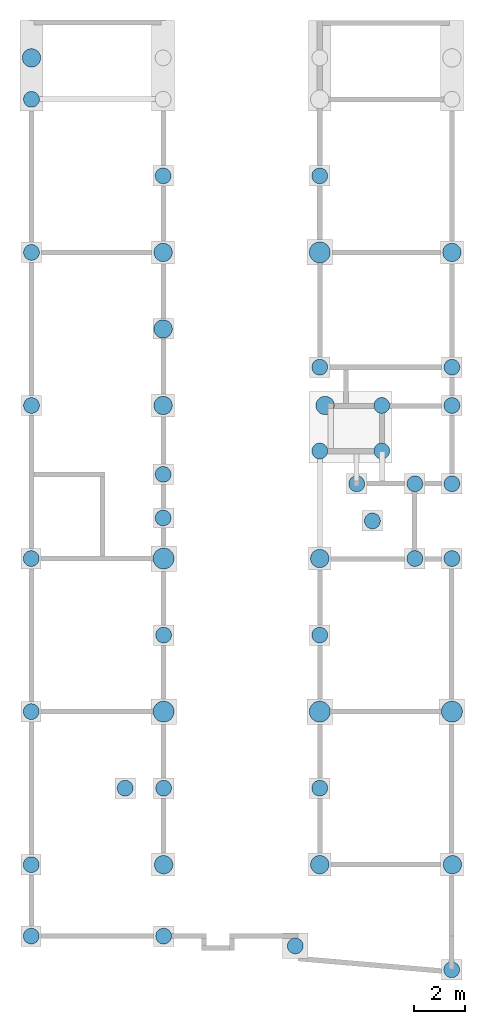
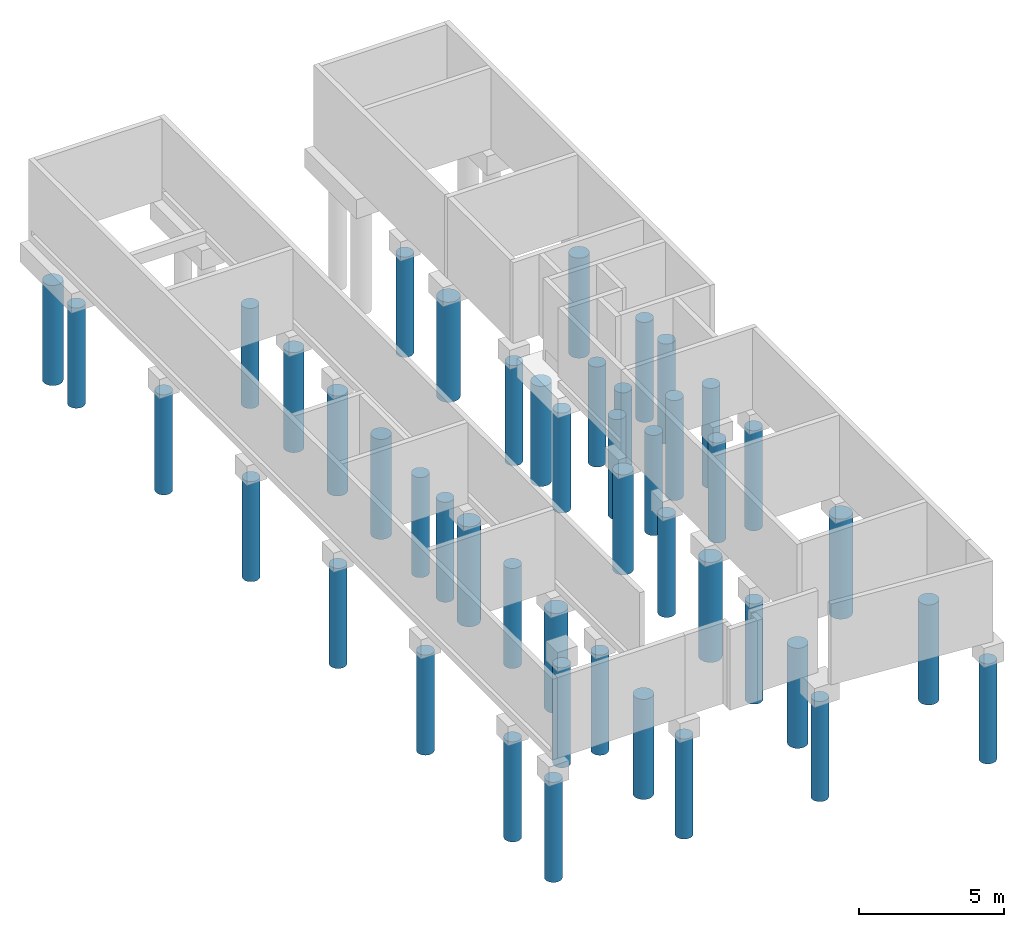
# One storey, part 1 of 3: 46 columns.
"""IFC2X3 building model written with IfcOpenShell, lengths in metres."""

from ifc_helpers import new_model, entity, si_unit, converted_unit, derived_unit, direction, frame, frame_2d, origin, place, context, subcontext, project, spatial, circle, extrude, source, transform, mapped, material, type_object, type_shapes, element, save


model = new_model("IFC2X3")

# Units and contexts
model_context = context("Model", 3, precision=1e-05, world=origin(), true_north=direction((6.12303176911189e-17, 1.0)))
context_of_model = context(None, 3, precision=1e-05, world=origin(), true_north=direction((6.12303176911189e-17, 1.0)))
body_context = subcontext(model_context, "Body", "Model", "MODEL_VIEW")
ifc_project = project(units=[si_unit("LENGTHUNIT", "METRE"), si_unit("AREAUNIT", "SQUARE_METRE"), si_unit("VOLUMEUNIT", "CUBIC_METRE"), converted_unit("PLANEANGLEUNIT", "DEGREE", entity("IfcRatioMeasure", 0.0174532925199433), si_unit("PLANEANGLEUNIT", "RADIAN"), dimensions=[0, 0, 0, 0, 0, 0, 0]), si_unit("MASSUNIT", "GRAM", prefix="KILO"), si_unit("TIMEUNIT", "SECOND"), si_unit("FREQUENCYUNIT", "HERTZ"), si_unit("THERMODYNAMICTEMPERATUREUNIT", "DEGREE_CELSIUS"), derived_unit("THERMALTRANSMITTANCEUNIT", [(si_unit("MASSUNIT", "GRAM", prefix="KILO"), 1), (si_unit("THERMODYNAMICTEMPERATUREUNIT", "KELVIN"), -1), (si_unit("TIMEUNIT", "SECOND"), -3)]), derived_unit("VOLUMETRICFLOWRATEUNIT", [(si_unit("LENGTHUNIT", "METRE"), 3), (si_unit("TIMEUNIT", "SECOND"), -1)]), si_unit("ELECTRICCURRENTUNIT", "AMPERE"), si_unit("ELECTRICVOLTAGEUNIT", "VOLT"), si_unit("POWERUNIT", "WATT"), si_unit("FORCEUNIT", "NEWTON", prefix="KILO"), si_unit("ILLUMINANCEUNIT", "LUX"), si_unit("LUMINOUSFLUXUNIT", "LUMEN"), si_unit("LUMINOUSINTENSITYUNIT", "CANDELA"), si_unit("PRESSUREUNIT", "PASCAL")], contexts=[model_context, context_of_model])

# Site, building, storey
site_placement = place(None, origin())
site = spatial("IfcSite", under=ifc_project, at=site_placement, Name="Default", CompositionType="ELEMENT")
building_placement = place(site_placement, origin())
building = spatial("IfcBuilding", under=site, at=building_placement, CompositionType="ELEMENT")
storey_placement = place(building_placement, frame((0.0, 0.0, -3.39)))
storey = spatial("IfcBuildingStorey", under=building, at=storey_placement, Name="AS Dé", CompositionType="ELEMENT", Elevation=-3.39)

# Columns
column_type_1 = type_object("IfcColumnType", Name="Diamètre de 720 mm 2", PredefinedType="COLUMN")
shared_shape_1 = source(origin(), body_context, "Body", "SweptSolid", [
    extrude(circle(Radius=0.359999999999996, at=frame_2d((-1.08286712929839e-15, -0.119999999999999), x_axis=(1.0, 0.0))), frame((-5.49163901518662, -2.37014661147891, -8.39)), (0.0, 0.0, 1.0), 4.2),
])
type_shapes(column_type_1, [shared_shape_1])
column_1_placement = place(storey_placement, frame((0.0, 0.0, 3.39)))
element("IfcColumn", 1, at=column_1_placement, inside=storey, type_object=column_type_1, Name="Poteau rond:Diamètre de 720 mm 2", ObjectType="Diamètre de 720 mm 2", context=body_context, shape_type="MappedRepresentation", body=[
    mapped(shared_shape_1, transform((0.0, 0.0, 0.0), scale=1.0)),
])
ifc_material = material(Name="Béton C25/30")
column_type_2 = type_object("IfcColumnType", Name="Diamètre de 720 mm 2", PredefinedType="COLUMN", material=ifc_material)
shared_shape_2 = source(origin(), body_context, "Body", "SweptSolid", [
    extrude(circle(Radius=0.359999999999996, at=frame_2d((0.0, -0.119999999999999), x_axis=(1.0, 0.0))), frame((-10.6516390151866, 8.25485338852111, -8.39)), (0.0, 0.0, 1.0), 4.2),
])
type_shapes(column_type_2, [shared_shape_2])
column_2_placement = place(storey_placement, frame((0.0, 0.0, 3.39)))
element("IfcColumn", 2, at=column_2_placement, inside=storey, type_object=column_type_2, material=ifc_material, Name="Poteau rond:Diamètre de 720 mm 2", ObjectType="Diamètre de 720 mm 2", context=body_context, shape_type="MappedRepresentation", body=[
    mapped(shared_shape_2, transform((0.0, 0.0, 0.0), scale=1.0)),
])
column_type_3 = type_object("IfcColumnType", Name="Diamètre de 720 mm 2", PredefinedType="COLUMN", material=ifc_material)
shared_shape_3 = source(origin(), body_context, "Body", "SweptSolid", [
    extrude(circle(Radius=0.359999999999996, at=frame_2d((0.0, -0.119999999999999), x_axis=(1.0, 0.0))), frame((-5.49163901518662, 0.629853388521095, -8.39)), (0.0, 0.0, 1.0), 4.2),
])
type_shapes(column_type_3, [shared_shape_3])
column_3_placement = place(storey_placement, frame((0.0, 0.0, 3.39)))
element("IfcColumn", 3, at=column_3_placement, inside=storey, type_object=column_type_3, material=ifc_material, Name="Poteau rond:Diamètre de 720 mm 2", ObjectType="Diamètre de 720 mm 2", context=body_context, shape_type="MappedRepresentation", body=[
    mapped(shared_shape_3, transform((0.0, 0.0, 0.0), scale=1.0)),
])
column_type_4 = type_object("IfcColumnType", Name="Diamètre de 720 mm 2", PredefinedType="COLUMN")
shared_shape_4 = source(origin(), body_context, "Body", "SweptSolid", [
    extrude(circle(Radius=0.359999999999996, at=frame_2d((1.08286712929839e-15, -0.119999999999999), x_axis=(1.0, 0.0))), frame((5.82836098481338, 0.629853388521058, -8.39)), (0.0, 0.0, 1.0), 4.2),
])
type_shapes(column_type_4, [shared_shape_4])
column_4_placement = place(storey_placement, frame((0.0, 0.0, 3.39)))
element("IfcColumn", 4, at=column_4_placement, inside=storey, type_object=column_type_4, Name="Poteau rond:Diamètre de 720 mm 2", ObjectType="Diamètre de 720 mm 2", context=body_context, shape_type="MappedRepresentation", body=[
    mapped(shared_shape_4, transform((0.0, 0.0, 0.0), scale=1.0)),
])
column_type_5 = type_object("IfcColumnType", Name="Diamètre de 720 mm 2", PredefinedType="COLUMN")
shared_shape_5 = source(origin(), body_context, "Body", "SweptSolid", [
    extrude(circle(Radius=0.359999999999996, at=frame_2d((-1.08286712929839e-15, -0.12), x_axis=(1.0, 0.0))), frame((-5.49163901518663, -5.3701466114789, -8.39)), (0.0, 0.0, 1.0), 4.2),
])
type_shapes(column_type_5, [shared_shape_5])
column_5_placement = place(storey_placement, frame((0.0, 0.0, 3.39)))
element("IfcColumn", 5, at=column_5_placement, inside=storey, type_object=column_type_5, Name="Poteau rond:Diamètre de 720 mm 2", ObjectType="Diamètre de 720 mm 2", context=body_context, shape_type="MappedRepresentation", body=[
    mapped(shared_shape_5, transform((0.0, 0.0, 0.0), scale=1.0)),
])
column_type_6 = type_object("IfcColumnType", Name="Diamètre de 720 mm 2", PredefinedType="COLUMN", material=ifc_material)
shared_shape_6 = source(origin(), body_context, "Body", "SweptSolid", [
    extrude(circle(Radius=0.359999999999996, at=frame_2d((0.0, -0.119999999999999), x_axis=(1.0, 0.0))), frame((5.84836098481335, -23.3701466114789, -8.39)), (0.0, 0.0, 1.0), 4.2),
])
type_shapes(column_type_6, [shared_shape_6])
column_6_placement = place(storey_placement, frame((0.0, 0.0, 3.39)))
element("IfcColumn", 6, at=column_6_placement, inside=storey, type_object=column_type_6, material=ifc_material, Name="Poteau rond:Diamètre de 720 mm 2", ObjectType="Diamètre de 720 mm 2", context=body_context, shape_type="MappedRepresentation", body=[
    mapped(shared_shape_6, transform((0.0, 0.0, 0.0), scale=1.0)),
])
column_type_7 = type_object("IfcColumnType", Name="Diamètre de 720 mm 2", PredefinedType="COLUMN", material=ifc_material)
shared_shape_7 = source(origin(), body_context, "Body", "SweptSolid", [
    extrude(circle(Radius=0.359999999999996, at=frame_2d((5.41433564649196e-16, -0.119999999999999), x_axis=(1.0, 0.0))), frame((0.648360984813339, -23.3701466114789, -8.39)), (0.0, 0.0, 1.0), 4.2),
])
type_shapes(column_type_7, [shared_shape_7])
column_7_placement = place(storey_placement, frame((0.0, 0.0, 3.39)))
element("IfcColumn", 7, at=column_7_placement, inside=storey, type_object=column_type_7, material=ifc_material, Name="Poteau rond:Diamètre de 720 mm 2", ObjectType="Diamètre de 720 mm 2", context=body_context, shape_type="MappedRepresentation", body=[
    mapped(shared_shape_7, transform((0.0, 0.0, 0.0), scale=1.0)),
])
column_type_8 = type_object("IfcColumnType", Name="Diamètre de 720 mm 2", PredefinedType="COLUMN", material=ifc_material)
shared_shape_8 = source(origin(), body_context, "Body", "SweptSolid", [
    extrude(circle(Radius=0.359999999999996, at=frame_2d((5.41433564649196e-16, -0.119999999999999), x_axis=(1.0, 0.0))), frame((0.648360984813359, -11.3701466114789, -8.39)), (0.0, 0.0, 1.0), 4.2),
])
type_shapes(column_type_8, [shared_shape_8])
column_8_placement = place(storey_placement, frame((0.0, 0.0, 3.39)))
element("IfcColumn", 8, at=column_8_placement, inside=storey, type_object=column_type_8, material=ifc_material, Name="Poteau rond:Diamètre de 720 mm 2", ObjectType="Diamètre de 720 mm 2", context=body_context, shape_type="MappedRepresentation", body=[
    mapped(shared_shape_8, transform((0.0, 0.0, 0.0), scale=1.0)),
])
column_type_9 = type_object("IfcColumnType", Name="Diamètre de 620 mm 3", PredefinedType="COLUMN", material=ifc_material)
shared_shape_9 = source(origin(), body_context, "Body", "SweptSolid", [
    extrude(circle(Radius=0.309999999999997, at=frame_2d((-2.16573425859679e-15, -0.103333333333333), x_axis=(1.0, 0.0))), frame((-10.6516390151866, 6.61318672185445, -8.39)), (0.0, 0.0, 1.0), 4.2),
])
type_shapes(column_type_9, [shared_shape_9])
column_9_placement = place(storey_placement, frame((0.0, 0.0, 3.39)))
element("IfcColumn", 9, at=column_9_placement, inside=storey, type_object=column_type_9, material=ifc_material, Name="Poteau rond:Diamètre de 620 mm 3", ObjectType="Diamètre de 620 mm 3", context=body_context, shape_type="MappedRepresentation", body=[
    mapped(shared_shape_9, transform((0.0, 0.0, 0.0), scale=1.0)),
])
column_type_10 = type_object("IfcColumnType", Name="Diamètre de 620 mm 3", PredefinedType="COLUMN")
shared_shape_10 = source(origin(), body_context, "Body", "SweptSolid", [
    extrude(circle(Radius=0.309999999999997, at=frame_2d((0.0, -0.103333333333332), x_axis=(1.0, 0.0))), frame((-5.49163901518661, 3.61318672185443, -8.39)), (0.0, 0.0, 1.0), 4.2),
])
type_shapes(column_type_10, [shared_shape_10])
column_10_placement = place(storey_placement, frame((0.0, 0.0, 3.39)))
element("IfcColumn", 10, at=column_10_placement, inside=storey, type_object=column_type_10, Name="Poteau rond:Diamètre de 620 mm 3", ObjectType="Diamètre de 620 mm 3", context=body_context, shape_type="MappedRepresentation", body=[
    mapped(shared_shape_10, transform((0.0, 0.0, 0.0), scale=1.0)),
])
column_type_11 = type_object("IfcColumnType", Name="Diamètre de 620 mm 3", PredefinedType="COLUMN", material=ifc_material)
shared_shape_11 = source(origin(), body_context, "Body", "SweptSolid", [
    extrude(circle(Radius=0.309999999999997, at=frame_2d((5.41433564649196e-16, -0.103333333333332), x_axis=(1.0, 0.0))), frame((0.648360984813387, 3.61318672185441, -8.39)), (0.0, 0.0, 1.0), 4.2),
])
type_shapes(column_type_11, [shared_shape_11])
column_11_placement = place(storey_placement, frame((0.0, 0.0, 3.39)))
element("IfcColumn", 11, at=column_11_placement, inside=storey, type_object=column_type_11, material=ifc_material, Name="Poteau rond:Diamètre de 620 mm 3", ObjectType="Diamètre de 620 mm 3", context=body_context, shape_type="MappedRepresentation", body=[
    mapped(shared_shape_11, transform((0.0, 0.0, 0.0), scale=1.0)),
])
column_type_12 = type_object("IfcColumnType", Name="Diamètre de 620 mm 3", PredefinedType="COLUMN")
shared_shape_12 = source(origin(), body_context, "Body", "SweptSolid", [
    extrude(circle(Radius=0.309999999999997, at=frame_2d((5.41433564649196e-16, -0.103333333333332), x_axis=(1.0, 0.0))), frame((0.648360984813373, -3.88681327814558, -8.39)), (0.0, 0.0, 1.0), 4.2),
])
type_shapes(column_type_12, [shared_shape_12])
column_12_placement = place(storey_placement, frame((0.0, 0.0, 3.39)))
element("IfcColumn", 12, at=column_12_placement, inside=storey, type_object=column_type_12, Name="Poteau rond:Diamètre de 620 mm 3", ObjectType="Diamètre de 620 mm 3", context=body_context, shape_type="MappedRepresentation", body=[
    mapped(shared_shape_12, transform((0.0, 0.0, 0.0), scale=1.0)),
])
column_type_13 = type_object("IfcColumnType", Name="Diamètre de 620 mm 3", PredefinedType="COLUMN")
shared_shape_13 = source(origin(), body_context, "Body", "SweptSolid", [
    extrude(circle(Radius=0.309999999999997, at=frame_2d((0.0, -0.103333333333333), x_axis=(1.0, 0.0))), frame((5.82836098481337, -3.8868132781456, -8.39)), (0.0, 0.0, 1.0), 4.2),
])
type_shapes(column_type_13, [shared_shape_13])
column_13_placement = place(storey_placement, frame((0.0, 0.0, 3.39)))
element("IfcColumn", 13, at=column_13_placement, inside=storey, type_object=column_type_13, Name="Poteau rond:Diamètre de 620 mm 3", ObjectType="Diamètre de 620 mm 3", context=body_context, shape_type="MappedRepresentation", body=[
    mapped(shared_shape_13, transform((0.0, 0.0, 0.0), scale=1.0)),
])
column_type_14 = type_object("IfcColumnType", Name="Diamètre de 620 mm 3", PredefinedType="COLUMN")
shared_shape_14 = source(origin(), body_context, "Body", "SweptSolid", [
    extrude(circle(Radius=0.309999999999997, at=frame_2d((1.08286712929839e-15, -0.103333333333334), x_axis=(1.0, 0.0))), frame((5.82836098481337, -5.38681327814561, -8.39)), (0.0, 0.0, 1.0), 4.2),
])
type_shapes(column_type_14, [shared_shape_14])
column_14_placement = place(storey_placement, frame((0.0, 0.0, 3.39)))
element("IfcColumn", 14, at=column_14_placement, inside=storey, type_object=column_type_14, Name="Poteau rond:Diamètre de 620 mm 3", ObjectType="Diamètre de 620 mm 3", context=body_context, shape_type="MappedRepresentation", body=[
    mapped(shared_shape_14, transform((0.0, 0.0, 0.0), scale=1.0)),
])
column_type_15 = type_object("IfcColumnType", Name="Diamètre de 620 mm 3", PredefinedType="COLUMN", material=ifc_material)
shared_shape_15 = source(origin(), body_context, "Body", "SweptSolid", [
    extrude(circle(Radius=0.309999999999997, at=frame_2d((5.41433564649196e-16, -0.103333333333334), x_axis=(1.0, 0.0))), frame((3.07836098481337, -5.3868132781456, -8.39)), (0.0, 0.0, 1.0), 4.2),
])
type_shapes(column_type_15, [shared_shape_15])
column_15_placement = place(storey_placement, frame((0.0, 0.0, 3.39)))
element("IfcColumn", 15, at=column_15_placement, inside=storey, type_object=column_type_15, material=ifc_material, Name="Poteau rond:Diamètre de 620 mm 3", ObjectType="Diamètre de 620 mm 3", context=body_context, shape_type="MappedRepresentation", body=[
    mapped(shared_shape_15, transform((0.0, 0.0, 0.0), scale=1.0)),
])
column_type_16 = type_object("IfcColumnType", Name="Diamètre de 620 mm 3", PredefinedType="COLUMN", material=ifc_material)
shared_shape_16 = source(origin(), body_context, "Body", "SweptSolid", [
    extrude(circle(Radius=0.309999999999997, at=frame_2d((5.41433564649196e-16, -0.103333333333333), x_axis=(1.0, 0.0))), frame((3.07836098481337, -7.1723132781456, -8.39)), (0.0, 0.0, 1.0), 4.2),
])
type_shapes(column_type_16, [shared_shape_16])
column_16_placement = place(storey_placement, frame((0.0, 0.0, 3.39)))
element("IfcColumn", 16, at=column_16_placement, inside=storey, type_object=column_type_16, material=ifc_material, Name="Poteau rond:Diamètre de 620 mm 3", ObjectType="Diamètre de 620 mm 3", context=body_context, shape_type="MappedRepresentation", body=[
    mapped(shared_shape_16, transform((0.0, 0.0, 0.0), scale=1.0)),
])
column_type_17 = type_object("IfcColumnType", Name="Diamètre de 620 mm 3", PredefinedType="COLUMN", material=ifc_material)
shared_shape_17 = source(origin(), body_context, "Body", "SweptSolid", [
    extrude(circle(Radius=0.309999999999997, at=frame_2d((5.41433564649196e-16, -0.103333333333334), x_axis=(1.0, 0.0))), frame((0.648360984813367, -7.17231327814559, -8.39)), (0.0, 0.0, 1.0), 4.2),
])
type_shapes(column_type_17, [shared_shape_17])
column_17_placement = place(storey_placement, frame((0.0, 0.0, 3.39)))
element("IfcColumn", 17, at=column_17_placement, inside=storey, type_object=column_type_17, material=ifc_material, Name="Poteau rond:Diamètre de 620 mm 3", ObjectType="Diamètre de 620 mm 3", context=body_context, shape_type="MappedRepresentation", body=[
    mapped(shared_shape_17, transform((0.0, 0.0, 0.0), scale=1.0)),
])
column_type_18 = type_object("IfcColumnType", Name="Diamètre de 620 mm 3", PredefinedType="COLUMN", material=ifc_material)
shared_shape_18 = source(origin(), body_context, "Body", "SweptSolid", [
    extrude(circle(Radius=0.309999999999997, at=frame_2d((5.41433564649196e-16, -0.103333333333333), x_axis=(1.0, 0.0))), frame((2.09836098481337, -8.4568132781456, -8.39)), (0.0, 0.0, 1.0), 4.2),
])
type_shapes(column_type_18, [shared_shape_18])
column_18_placement = place(storey_placement, frame((0.0, 0.0, 3.39)))
element("IfcColumn", 18, at=column_18_placement, inside=storey, type_object=column_type_18, material=ifc_material, Name="Poteau rond:Diamètre de 620 mm 3", ObjectType="Diamètre de 620 mm 3", context=body_context, shape_type="MappedRepresentation", body=[
    mapped(shared_shape_18, transform((0.0, 0.0, 0.0), scale=1.0)),
])
column_type_19 = type_object("IfcColumnType", Name="Diamètre de 620 mm 3", PredefinedType="COLUMN", material=ifc_material)
shared_shape_19 = source(origin(), body_context, "Body", "SweptSolid", [
    extrude(circle(Radius=0.309999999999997, at=frame_2d((5.41433564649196e-16, -0.103333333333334), x_axis=(1.0, 0.0))), frame((4.37836098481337, -8.4568132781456, -8.39)), (0.0, 0.0, 1.0), 4.2),
])
type_shapes(column_type_19, [shared_shape_19])
column_19_placement = place(storey_placement, frame((0.0, 0.0, 3.39)))
element("IfcColumn", 19, at=column_19_placement, inside=storey, type_object=column_type_19, material=ifc_material, Name="Poteau rond:Diamètre de 620 mm 3", ObjectType="Diamètre de 620 mm 3", context=body_context, shape_type="MappedRepresentation", body=[
    mapped(shared_shape_19, transform((0.0, 0.0, 0.0), scale=1.0)),
])
column_type_20 = type_object("IfcColumnType", Name="Diamètre de 620 mm 3", PredefinedType="COLUMN")
shared_shape_20 = source(origin(), body_context, "Body", "SweptSolid", [
    extrude(circle(Radius=0.309999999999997, at=frame_2d((1.08286712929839e-15, -0.103333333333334), x_axis=(1.0, 0.0))), frame((5.82836098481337, -8.45681327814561, -8.39)), (0.0, 0.0, 1.0), 4.2),
])
type_shapes(column_type_20, [shared_shape_20])
column_20_placement = place(storey_placement, frame((0.0, 0.0, 3.39)))
element("IfcColumn", 20, at=column_20_placement, inside=storey, type_object=column_type_20, Name="Poteau rond:Diamètre de 620 mm 3", ObjectType="Diamètre de 620 mm 3", context=body_context, shape_type="MappedRepresentation", body=[
    mapped(shared_shape_20, transform((0.0, 0.0, 0.0), scale=1.0)),
])
column_type_21 = type_object("IfcColumnType", Name="Diamètre de 620 mm 3", PredefinedType="COLUMN")
shared_shape_21 = source(origin(), body_context, "Body", "SweptSolid", [
    extrude(circle(Radius=0.309999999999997, at=frame_2d((4.20978052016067e-16, -0.103333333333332), x_axis=(1.0, 0.0))), frame((0.0, 0.103333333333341, -8.39)), (0.0, 0.0, 1.0), 4.2),
])
type_shapes(column_type_21, [shared_shape_21])
for number, where, name in (
    (21, (2.71336098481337, -10.0161466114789, 3.39), "Poteau rond:Diamètre de 620 mm 3"),
    (22, (0.64836098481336, -14.4901466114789, 3.39), "Poteau rond:Diamètre de 620 mm 3"),
    (23, (0.648360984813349, -20.4901466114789, 3.39), "Poteau rond:Diamètre de 620 mm 3"),
    (24, (-6.98163901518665, -20.4901466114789, 3.39), "Poteau rond:Diamètre de 620 mm 3"),
):
    element("IfcColumn", number, at=place(storey_placement, frame(where)), inside=storey, type_object=column_type_21, Name=name, ObjectType="Diamètre de 620 mm 3", context=body_context, shape_type="MappedRepresentation", body=[
        mapped(shared_shape_21, transform((0.0, 0.0, 0.0), scale=1.0)),
    ])
column_type_22 = type_object("IfcColumnType", Name="Diamètre de 620 mm 3", PredefinedType="COLUMN", material=ifc_material)
shared_shape_22 = source(origin(), body_context, "Body", "SweptSolid", [
    extrude(circle(Radius=0.309999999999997, at=frame_2d((5.41433564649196e-16, -0.103333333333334), x_axis=(1.0, 0.0))), frame((4.37836098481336, -11.3868132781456, -8.39)), (0.0, 0.0, 1.0), 4.2),
])
type_shapes(column_type_22, [shared_shape_22])
column_21_placement = place(storey_placement, frame((0.0, 0.0, 3.39)))
element("IfcColumn", 25, at=column_21_placement, inside=storey, type_object=column_type_22, material=ifc_material, Name="Poteau rond:Diamètre de 620 mm 3", ObjectType="Diamètre de 620 mm 3", context=body_context, shape_type="MappedRepresentation", body=[
    mapped(shared_shape_22, transform((0.0, 0.0, 0.0), scale=1.0)),
])
column_type_23 = type_object("IfcColumnType", Name="Diamètre de 620 mm 3", PredefinedType="COLUMN")
shared_shape_23 = source(origin(), body_context, "Body", "SweptSolid", [
    extrude(circle(Radius=0.309999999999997, at=frame_2d((1.08286712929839e-15, -0.103333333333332), x_axis=(1.0, 0.0))), frame((5.82836098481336, -11.3868132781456, -8.39)), (0.0, 0.0, 1.0), 4.2),
])
type_shapes(column_type_23, [shared_shape_23])
column_22_placement = place(storey_placement, frame((0.0, 0.0, 3.39)))
element("IfcColumn", 26, at=column_22_placement, inside=storey, type_object=column_type_23, Name="Poteau rond:Diamètre de 620 mm 3", ObjectType="Diamètre de 620 mm 3", context=body_context, shape_type="MappedRepresentation", body=[
    mapped(shared_shape_23, transform((0.0, 0.0, 0.0), scale=1.0)),
])
column_type_24 = type_object("IfcColumnType", Name="Diamètre de 620 mm 3", PredefinedType="COLUMN")
shared_shape_24 = source(origin(), body_context, "Body", "SweptSolid", [
    extrude(circle(Radius=0.309999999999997, at=frame_2d((4.06075173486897e-16, -0.103333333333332), x_axis=(1.0, 0.0))), frame((-0.311639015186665, -26.5718132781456, -8.39)), (0.0, 0.0, 1.0), 4.2),
])
type_shapes(column_type_24, [shared_shape_24])
column_23_placement = place(storey_placement, frame((0.0, 0.0, 3.39)))
element("IfcColumn", 27, at=column_23_placement, inside=storey, type_object=column_type_24, Name="Poteau rond:Diamètre de 620 mm 3", ObjectType="Diamètre de 620 mm 3", context=body_context, shape_type="MappedRepresentation", body=[
    mapped(shared_shape_24, transform((0.0, 0.0, 0.0), scale=1.0)),
])
column_type_25 = type_object("IfcColumnType", Name="Diamètre de 620 mm 3", PredefinedType="COLUMN", material=ifc_material)
shared_shape_25 = source(origin(), body_context, "Body", "SweptSolid", [
    extrude(circle(Radius=0.309999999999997, at=frame_2d((-2.16573425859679e-15, -0.103333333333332), x_axis=(1.0, 0.0))), frame((-10.6616390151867, -26.1868132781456, -8.39)), (0.0, 0.0, 1.0), 4.2),
])
type_shapes(column_type_25, [shared_shape_25])
column_24_placement = place(storey_placement, frame((0.0, 0.0, 3.39)))
element("IfcColumn", 28, at=column_24_placement, inside=storey, type_object=column_type_25, material=ifc_material, Name="Poteau rond:Diamètre de 620 mm 3", ObjectType="Diamètre de 620 mm 3", context=body_context, shape_type="MappedRepresentation", body=[
    mapped(shared_shape_25, transform((0.0, 0.0, 0.0), scale=1.0)),
])
column_type_26 = type_object("IfcColumnType", Name="Diamètre de 620 mm 3", PredefinedType="COLUMN")
shared_shape_26 = source(origin(), body_context, "Body", "SweptSolid", [
    extrude(circle(Radius=0.309999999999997, at=frame_2d((-2.16573425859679e-15, -0.103333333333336), x_axis=(1.0, 0.0))), frame((-10.6616390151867, -23.3868132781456, -8.39)), (0.0, 0.0, 1.0), 4.2),
])
type_shapes(column_type_26, [shared_shape_26])
column_25_placement = place(storey_placement, frame((0.0, 0.0, 3.39)))
element("IfcColumn", 29, at=column_25_placement, inside=storey, type_object=column_type_26, Name="Poteau rond:Diamètre de 620 mm 3", ObjectType="Diamètre de 620 mm 3", context=body_context, shape_type="MappedRepresentation", body=[
    mapped(shared_shape_26, transform((0.0, 0.0, 0.0), scale=1.0)),
])
column_type_27 = type_object("IfcColumnType", Name="Diamètre de 620 mm 3", PredefinedType="COLUMN")
shared_shape_27 = source(origin(), body_context, "Body", "SweptSolid", [
    extrude(circle(Radius=0.309999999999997, at=frame_2d((-2.16573425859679e-15, -0.103333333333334), x_axis=(1.0, 0.0))), frame((-10.6616390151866, -17.3868132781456, -8.39)), (0.0, 0.0, 1.0), 4.2),
])
type_shapes(column_type_27, [shared_shape_27])
column_26_placement = place(storey_placement, frame((0.0, 0.0, 3.39)))
element("IfcColumn", 30, at=column_26_placement, inside=storey, type_object=column_type_27, Name="Poteau rond:Diamètre de 620 mm 3", ObjectType="Diamètre de 620 mm 3", context=body_context, shape_type="MappedRepresentation", body=[
    mapped(shared_shape_27, transform((0.0, 0.0, 0.0), scale=1.0)),
])
column_type_28 = type_object("IfcColumnType", Name="Diamètre de 620 mm 3", PredefinedType="COLUMN")
shared_shape_28 = source(origin(), body_context, "Body", "SweptSolid", [
    extrude(circle(Radius=0.309999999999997, at=frame_2d((-2.16573425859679e-15, -0.103333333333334), x_axis=(1.0, 0.0))), frame((-10.6616390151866, -11.3868132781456, -8.39)), (0.0, 0.0, 1.0), 4.2),
])
type_shapes(column_type_28, [shared_shape_28])
column_27_placement = place(storey_placement, frame((0.0, 0.0, 3.39)))
element("IfcColumn", 31, at=column_27_placement, inside=storey, type_object=column_type_28, Name="Poteau rond:Diamètre de 620 mm 3", ObjectType="Diamètre de 620 mm 3", context=body_context, shape_type="MappedRepresentation", body=[
    mapped(shared_shape_28, transform((0.0, 0.0, 0.0), scale=1.0)),
])
column_type_29 = type_object("IfcColumnType", Name="Diamètre de 620 mm 3", PredefinedType="COLUMN", material=ifc_material)
shared_shape_29 = source(origin(), body_context, "Body", "SweptSolid", [
    extrude(circle(Radius=0.309999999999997, at=frame_2d((-2.16573425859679e-15, -0.103333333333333), x_axis=(1.0, 0.0))), frame((-10.6516390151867, -5.38681327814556, -8.39)), (0.0, 0.0, 1.0), 4.2),
])
type_shapes(column_type_29, [shared_shape_29])
column_28_placement = place(storey_placement, frame((0.0, 0.0, 3.39)))
element("IfcColumn", 32, at=column_28_placement, inside=storey, type_object=column_type_29, material=ifc_material, Name="Poteau rond:Diamètre de 620 mm 3", ObjectType="Diamètre de 620 mm 3", context=body_context, shape_type="MappedRepresentation", body=[
    mapped(shared_shape_29, transform((0.0, 0.0, 0.0), scale=1.0)),
])
column_type_30 = type_object("IfcColumnType", Name="Diamètre de 620 mm 3", PredefinedType="COLUMN")
shared_shape_30 = source(origin(), body_context, "Body", "SweptSolid", [
    extrude(circle(Radius=0.309999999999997, at=frame_2d((-2.16573425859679e-15, -0.103333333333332), x_axis=(1.0, 0.0))), frame((-10.6516390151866, 0.613186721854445, -8.39)), (0.0, 0.0, 1.0), 4.2),
])
type_shapes(column_type_30, [shared_shape_30])
column_29_placement = place(storey_placement, frame((0.0, 0.0, 3.39)))
element("IfcColumn", 33, at=column_29_placement, inside=storey, type_object=column_type_30, Name="Poteau rond:Diamètre de 620 mm 3", ObjectType="Diamètre de 620 mm 3", context=body_context, shape_type="MappedRepresentation", body=[
    mapped(shared_shape_30, transform((0.0, 0.0, 0.0), scale=1.0)),
])
column_type_31 = type_object("IfcColumnType", Name="Diamètre de820 mm 4", PredefinedType="COLUMN")
shared_shape_31 = source(origin(), body_context, "Body", "SweptSolid", [
    extrude(circle(Radius=0.409999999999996, at=frame_2d((6.76791955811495e-16, -0.136666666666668), x_axis=(1.0, 0.0))), frame((0.64836098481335, -17.3534799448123, -8.39)), (0.0, 0.0, 1.0), 4.2),
])
type_shapes(column_type_31, [shared_shape_31])
column_30_placement = place(storey_placement, frame((0.0, 0.0, 3.39)))
element("IfcColumn", 34, at=column_30_placement, inside=storey, type_object=column_type_31, Name="Poteau rond:Diamètre de820 mm 4", ObjectType="Diamètre de820 mm 4", context=body_context, shape_type="MappedRepresentation", body=[
    mapped(shared_shape_31, transform((0.0, 0.0, 0.0), scale=1.0)),
])
column_type_32 = type_object("IfcColumnType", Name="Diamètre de820 mm 4", PredefinedType="COLUMN")
shared_shape_32 = source(origin(), body_context, "Body", "SweptSolid", [
    extrude(circle(Radius=0.409999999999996, at=frame_2d((1.08286712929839e-15, -0.136666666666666), x_axis=(1.0, 0.0))), frame((5.82836098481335, -17.3534799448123, -8.39)), (0.0, 0.0, 1.0), 4.2),
])
type_shapes(column_type_32, [shared_shape_32])
column_31_placement = place(storey_placement, frame((0.0, 0.0, 3.39)))
element("IfcColumn", 35, at=column_31_placement, inside=storey, type_object=column_type_32, Name="Poteau rond:Diamètre de820 mm 4", ObjectType="Diamètre de820 mm 4", context=body_context, shape_type="MappedRepresentation", body=[
    mapped(shared_shape_32, transform((0.0, 0.0, 0.0), scale=1.0)),
])
column_type_33 = type_object("IfcColumnType", Name="Diamètre de820 mm 4", PredefinedType="COLUMN", material=ifc_material)
shared_shape_33 = source(origin(), body_context, "Body", "SweptSolid", [
    extrude(circle(Radius=0.409999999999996, at=frame_2d((6.76791955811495e-16, -0.136666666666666), x_axis=(1.0, 0.0))), frame((0.64836098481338, 0.646520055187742, -8.39)), (0.0, 0.0, 1.0), 4.2),
])
type_shapes(column_type_33, [shared_shape_33])
column_32_placement = place(storey_placement, frame((0.0, 0.0, 3.39)))
element("IfcColumn", 36, at=column_32_placement, inside=storey, type_object=column_type_33, material=ifc_material, Name="Poteau rond:Diamètre de820 mm 4", ObjectType="Diamètre de820 mm 4", context=body_context, shape_type="MappedRepresentation", body=[
    mapped(shared_shape_33, transform((0.0, 0.0, 0.0), scale=1.0)),
])
column_type_34 = type_object("IfcColumnType", Name="Diamètre de 620 mm 3", PredefinedType="COLUMN")
shared_shape_34 = source(origin(), body_context, "Body", "SweptSolid", [
    extrude(circle(Radius=0.309999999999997, at=frame_2d((1.08286712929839e-15, -0.103333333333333), x_axis=(1.0, 0.0))), frame((-5.49163901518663, -8.08681327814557, -8.39)), (0.0, 0.0, 1.0), 4.2),
])
type_shapes(column_type_34, [shared_shape_34])
column_33_placement = place(storey_placement, frame((0.0, 0.0, 3.39)))
element("IfcColumn", 37, at=column_33_placement, inside=storey, type_object=column_type_34, Name="Poteau rond:Diamètre de 620 mm 3", ObjectType="Diamètre de 620 mm 3", context=body_context, shape_type="MappedRepresentation", body=[
    mapped(shared_shape_34, transform((0.0, 0.0, 0.0), scale=1.0)),
])
column_type_35 = type_object("IfcColumnType", Name="Diamètre de 620 mm 3", PredefinedType="COLUMN")
shared_shape_35 = source(origin(), body_context, "Body", "SweptSolid", [
    extrude(circle(Radius=0.309999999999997, at=frame_2d((1.08286712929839e-15, -0.103333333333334), x_axis=(1.0, 0.0))), frame((-5.49163901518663, -9.79681327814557, -8.39)), (0.0, 0.0, 1.0), 4.2),
])
type_shapes(column_type_35, [shared_shape_35])
column_34_placement = place(storey_placement, frame((0.0, 0.0, 3.39)))
element("IfcColumn", 38, at=column_34_placement, inside=storey, type_object=column_type_35, Name="Poteau rond:Diamètre de 620 mm 3", ObjectType="Diamètre de 620 mm 3", context=body_context, shape_type="MappedRepresentation", body=[
    mapped(shared_shape_35, transform((0.0, 0.0, 0.0), scale=1.0)),
])
column_type_36 = type_object("IfcColumnType", Name="Diamètre de820 mm 4", PredefinedType="COLUMN")
shared_shape_36 = source(origin(), body_context, "Body", "SweptSolid", [
    extrude(circle(Radius=0.409999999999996, at=frame_2d((0.0, -0.136666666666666), x_axis=(1.0, 0.0))), frame((-5.47163901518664, -11.3534799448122, -8.39)), (0.0, 0.0, 1.0), 4.2),
])
type_shapes(column_type_36, [shared_shape_36])
column_35_placement = place(storey_placement, frame((0.0, 0.0, 3.39)))
element("IfcColumn", 39, at=column_35_placement, inside=storey, type_object=column_type_36, Name="Poteau rond:Diamètre de820 mm 4", ObjectType="Diamètre de820 mm 4", context=body_context, shape_type="MappedRepresentation", body=[
    mapped(shared_shape_36, transform((0.0, 0.0, 0.0), scale=1.0)),
])
column_type_37 = type_object("IfcColumnType", Name="Diamètre de 620 mm 3", PredefinedType="COLUMN", material=ifc_material)
shared_shape_37 = source(origin(), body_context, "Body", "SweptSolid", [
    extrude(circle(Radius=0.309999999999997, at=frame_2d((1.08286712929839e-15, -0.103333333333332), x_axis=(1.0, 0.0))), frame((-5.47163901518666, -26.1868132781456, -8.39)), (0.0, 0.0, 1.0), 4.2),
])
type_shapes(column_type_37, [shared_shape_37])
column_36_placement = place(storey_placement, frame((0.0, 0.0, 3.39)))
element("IfcColumn", 40, at=column_36_placement, inside=storey, type_object=column_type_37, material=ifc_material, Name="Poteau rond:Diamètre de 620 mm 3", ObjectType="Diamètre de 620 mm 3", context=body_context, shape_type="MappedRepresentation", body=[
    mapped(shared_shape_37, transform((0.0, 0.0, 0.0), scale=1.0)),
])
column_type_38 = type_object("IfcColumnType", Name="Diamètre de 620 mm 3", PredefinedType="COLUMN")
shared_shape_38 = source(origin(), body_context, "Body", "SweptSolid", [
    extrude(circle(Radius=0.309999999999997, at=frame_2d((0.0, -0.103333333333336), x_axis=(1.0, 0.0))), frame((-5.47163901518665, -20.3868132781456, -8.39)), (0.0, 0.0, 1.0), 4.2),
])
type_shapes(column_type_38, [shared_shape_38])
column_37_placement = place(storey_placement, frame((0.0, 0.0, 3.39)))
element("IfcColumn", 41, at=column_37_placement, inside=storey, type_object=column_type_38, Name="Poteau rond:Diamètre de 620 mm 3", ObjectType="Diamètre de 620 mm 3", context=body_context, shape_type="MappedRepresentation", body=[
    mapped(shared_shape_38, transform((0.0, 0.0, 0.0), scale=1.0)),
])
column_type_39 = type_object("IfcColumnType", Name="Diamètre de 620 mm 3", PredefinedType="COLUMN")
shared_shape_39 = source(origin(), body_context, "Body", "SweptSolid", [
    extrude(circle(Radius=0.309999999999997, at=frame_2d((0.0, -0.103333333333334), x_axis=(1.0, 0.0))), frame((-5.47163901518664, -14.3868132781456, -8.39)), (0.0, 0.0, 1.0), 4.2),
])
type_shapes(column_type_39, [shared_shape_39])
column_38_placement = place(storey_placement, frame((0.0, 0.0, 3.39)))
element("IfcColumn", 42, at=column_38_placement, inside=storey, type_object=column_type_39, Name="Poteau rond:Diamètre de 620 mm 3", ObjectType="Diamètre de 620 mm 3", context=body_context, shape_type="MappedRepresentation", body=[
    mapped(shared_shape_39, transform((0.0, 0.0, 0.0), scale=1.0)),
])
column_type_40 = type_object("IfcColumnType", Name="Diamètre de 720 mm 2", PredefinedType="COLUMN")
shared_shape_40 = source(origin(), body_context, "Body", "SweptSolid", [
    extrude(circle(Radius=0.359999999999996, at=frame_2d((0.0, -0.119999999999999), x_axis=(1.0, 0.0))), frame((-5.47163901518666, -23.3701466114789, -8.39)), (0.0, 0.0, 1.0), 4.2),
])
type_shapes(column_type_40, [shared_shape_40])
column_39_placement = place(storey_placement, frame((0.0, 0.0, 3.39)))
element("IfcColumn", 43, at=column_39_placement, inside=storey, type_object=column_type_40, Name="Poteau rond:Diamètre de 720 mm 2", ObjectType="Diamètre de 720 mm 2", context=body_context, shape_type="MappedRepresentation", body=[
    mapped(shared_shape_40, transform((0.0, 0.0, 0.0), scale=1.0)),
])
column_type_41 = type_object("IfcColumnType", Name="Diamètre de820 mm 4", PredefinedType="COLUMN")
shared_shape_41 = source(origin(), body_context, "Body", "SweptSolid", [
    extrude(circle(Radius=0.409999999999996, at=frame_2d((1.08286712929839e-15, -0.136666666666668), x_axis=(1.0, 0.0))), frame((-5.47163901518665, -17.3534799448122, -8.39)), (0.0, 0.0, 1.0), 4.2),
])
type_shapes(column_type_41, [shared_shape_41])
column_40_placement = place(storey_placement, frame((0.0, 0.0, 3.39)))
element("IfcColumn", 44, at=column_40_placement, inside=storey, type_object=column_type_41, Name="Poteau rond:Diamètre de820 mm 4", ObjectType="Diamètre de820 mm 4", context=body_context, shape_type="MappedRepresentation", body=[
    mapped(shared_shape_41, transform((0.0, 0.0, 0.0), scale=1.0)),
])
column_type_42 = type_object("IfcColumnType", Name="Diamètre de 720 mm 2", PredefinedType="COLUMN", material=ifc_material)
shared_shape_42 = source(origin(), body_context, "Body", "SweptSolid", [
    extrude(circle(Radius=0.359999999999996, at=frame_2d((4.06075173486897e-16, -0.12), x_axis=(1.0, 0.0))), frame((0.858360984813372, -5.37014661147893, -8.39)), (0.0, 0.0, 1.0), 4.2),
])
type_shapes(column_type_42, [shared_shape_42])
column_41_placement = place(storey_placement, frame((0.0, 0.0, 3.39)))
element("IfcColumn", 45, at=column_41_placement, inside=storey, type_object=column_type_42, material=ifc_material, Name="Poteau rond:Diamètre de 720 mm 2", ObjectType="Diamètre de 720 mm 2", context=body_context, shape_type="MappedRepresentation", body=[
    mapped(shared_shape_42, transform((0.0, 0.0, 0.0), scale=1.0)),
])
column_type_43 = type_object("IfcColumnType", Name="Diamètre de 620 mm 3", PredefinedType="COLUMN", material=ifc_material)
shared_shape_43 = source(origin(), body_context, "Body", "SweptSolid", [
    extrude(circle(Radius=0.309999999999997, at=frame_2d((1.08286712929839e-15, -0.103333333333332), x_axis=(1.0, 0.0))), frame((5.81836098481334, -27.5068132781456, -8.39)), (0.0, 0.0, 1.0), 4.2),
])
type_shapes(column_type_43, [shared_shape_43])
column_42_placement = place(storey_placement, frame((0.0, 0.0, 3.39)))
element("IfcColumn", 46, at=column_42_placement, inside=storey, type_object=column_type_43, material=ifc_material, Name="Poteau rond:Diamètre de 620 mm 3", ObjectType="Diamètre de 620 mm 3", context=body_context, shape_type="MappedRepresentation", body=[
    mapped(shared_shape_43, transform((0.0, 0.0, 0.0), scale=1.0)),
])

save(model, "model.ifc")
